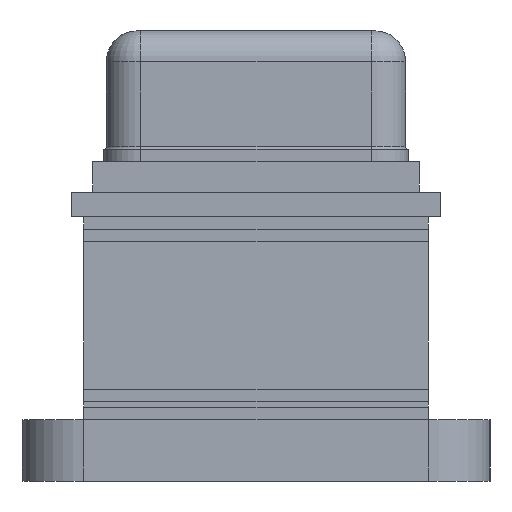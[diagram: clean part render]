
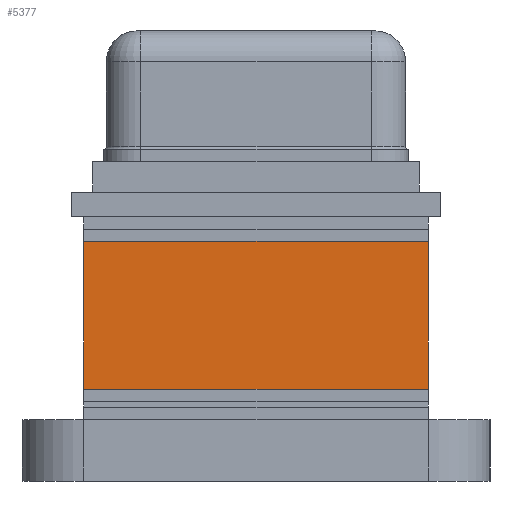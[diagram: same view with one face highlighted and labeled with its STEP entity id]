
A CAD part, left-side view. The second image highlights one B-rep face of the part: STEP entity #5377.
In plain terms, the highlighted planar face has unit normal (-1, 0, 0).
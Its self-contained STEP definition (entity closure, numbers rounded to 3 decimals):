
#20 = VECTOR ( 'NONE', #2352, 1000. ) ;
#323 = DIRECTION ( 'NONE',  ( 0., -1., 0. ) ) ;
#802 = CARTESIAN_POINT ( 'NONE',  ( -4.978, -0.116, 0. ) ) ;
#916 = LINE ( 'NONE', #5818, #4879 ) ;
#1520 = ORIENTED_EDGE ( 'NONE', *, *, #4481, .F. ) ;
#2152 = CARTESIAN_POINT ( 'NONE',  ( -4.978, -0.116, -1.2 ) ) ;
#2232 = VERTEX_POINT ( 'NONE', #6656 ) ;
#2352 = DIRECTION ( 'NONE',  ( 0., -1., 0. ) ) ;
#2372 = VERTEX_POINT ( 'NONE', #6408 ) ;
#2573 = VERTEX_POINT ( 'NONE', #802 ) ;
#2804 = FACE_OUTER_BOUND ( 'NONE', #7819, .T. ) ;
#2982 = CARTESIAN_POINT ( 'NONE',  ( -4.978, -2.916, -1.2 ) ) ;
#3454 = VECTOR ( 'NONE', #4663, 1000. ) ;
#3481 = AXIS2_PLACEMENT_3D ( 'NONE', #2152, #5243, #4624 ) ;
#3627 = EDGE_CURVE ( 'NONE', #6795, #2232, #6484, .T. ) ;
#3957 = CARTESIAN_POINT ( 'NONE',  ( -4.978, -0.116, -1.2 ) ) ;
#3981 = EDGE_CURVE ( 'NONE', #2372, #2573, #5276, .T. ) ;
#4481 = EDGE_CURVE ( 'NONE', #2573, #2232, #4670, .T. ) ;
#4624 = DIRECTION ( 'NONE',  ( 0., 0., 1. ) ) ;
#4663 = DIRECTION ( 'NONE',  ( 0., 0., 1. ) ) ;
#4670 = LINE ( 'NONE', #7834, #20 ) ;
#4879 = VECTOR ( 'NONE', #323, 1000. ) ;
#5199 = PLANE ( 'NONE',  #3481 ) ;
#5243 = DIRECTION ( 'NONE',  ( -1., 0., 0. ) ) ;
#5276 = LINE ( 'NONE', #3957, #3454 ) ;
#5354 = EDGE_CURVE ( 'NONE', #2372, #6795, #916, .T. ) ;
#5377 = ADVANCED_FACE ( 'NONE', ( #2804 ), #5199, .T. ) ;
#5531 = ORIENTED_EDGE ( 'NONE', *, *, #3627, .T. ) ;
#5818 = CARTESIAN_POINT ( 'NONE',  ( -4.978, -0.116, -1.2 ) ) ;
#5970 = VECTOR ( 'NONE', #6524, 1000. ) ;
#6408 = CARTESIAN_POINT ( 'NONE',  ( -4.978, -0.116, -1.2 ) ) ;
#6484 = LINE ( 'NONE', #7796, #5970 ) ;
#6524 = DIRECTION ( 'NONE',  ( 0., 0., 1. ) ) ;
#6656 = CARTESIAN_POINT ( 'NONE',  ( -4.978, -2.916, 0. ) ) ;
#6795 = VERTEX_POINT ( 'NONE', #2982 ) ;
#7428 = ORIENTED_EDGE ( 'NONE', *, *, #5354, .T. ) ;
#7448 = ORIENTED_EDGE ( 'NONE', *, *, #3981, .F. ) ;
#7796 = CARTESIAN_POINT ( 'NONE',  ( -4.978, -2.916, -1.2 ) ) ;
#7819 = EDGE_LOOP ( 'NONE', ( #1520, #7448, #7428, #5531 ) ) ;
#7834 = CARTESIAN_POINT ( 'NONE',  ( -4.978, -0.116, 0. ) ) ;
